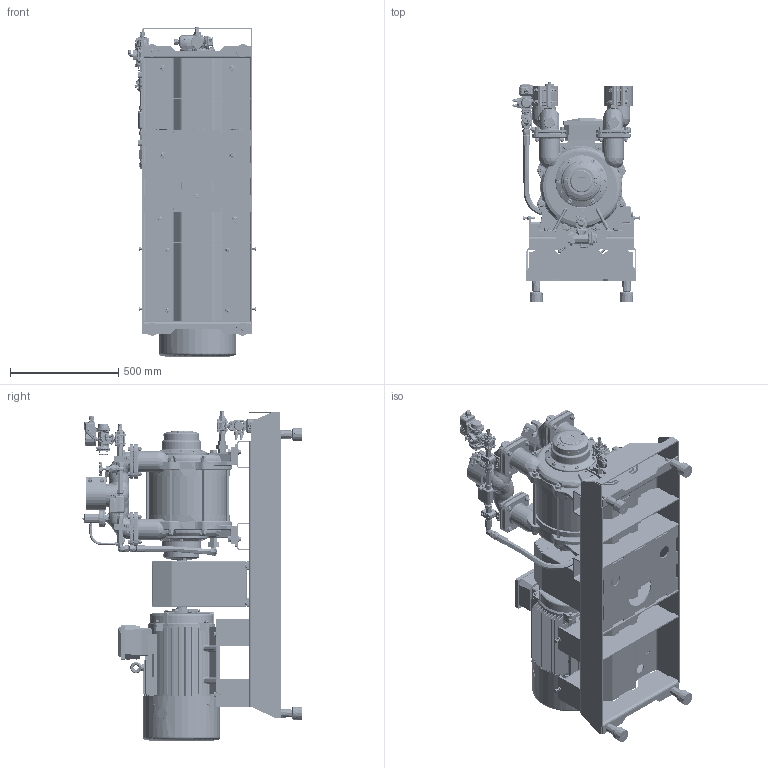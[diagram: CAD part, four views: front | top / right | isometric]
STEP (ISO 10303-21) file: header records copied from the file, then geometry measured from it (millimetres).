
FILE_DESCRIPTION(/* description */ (''),/* implementation_level */ '2;1');
FILE_NAME(/* name */ '1700145.stp',/* time_stamp */ '2025-05-01T09:39:24+02:00',/* author */ ('JJ'),/* organization */ (''),/* preprocessor_version */ 'ST-DEVELOPER v20',/* originating_system */ 'Autodesk Inventor 2025',/* authorisation */ '');
FILE_SCHEMA (('AUTOMOTIVE_DESIGN { 1 0 10303 214 3 1 1 }'));
Products named in the file (1): 1700145
Bounding box: 593.35 x 1019 x 1526.77 mm (x, y, z)
Volume: 91092748.7 mm3; surface area: 12729152.2 mm2
Topology: 232 solids, 232 shells, 25175 faces, 64708 edges, 41031 vertices
Faces by surface type: plane 11828, cylinder 5188, bspline 4177, cone 2181, torus 1614, sphere 187
Full cylindrical faces by diameter (mm): 0.8 x1, 0.847 x2, 0.857 x2, 1.6 x8, 1.656 x4, 1.7 x4, 1.8 x4, 2 x20, 2.2 x1, 2.5 x2, 3 x4, 3.2 x2, 3.3 x8, 3.6 x4, 4 x4, 4.134 x8, 4.2 x16, 4.3 x8, 4.45 x3, 4.567 x8, 4.917 x15, 4.92 x4, 5 x20, 5.3 x8, 5.6 x16, 6 x50, 6.1 x1, 6.4 x9, 6.5 x12, 6.647 x2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
Entity records: 1186938 total; most frequent: CARTESIAN_POINT 577643, ORIENTED_EDGE 128936, DIRECTION 109923, EDGE_CURVE 64468, VERTEX_POINT 41045, AXIS2_PLACEMENT_3D 38190, LINE 33543, VECTOR 33543
